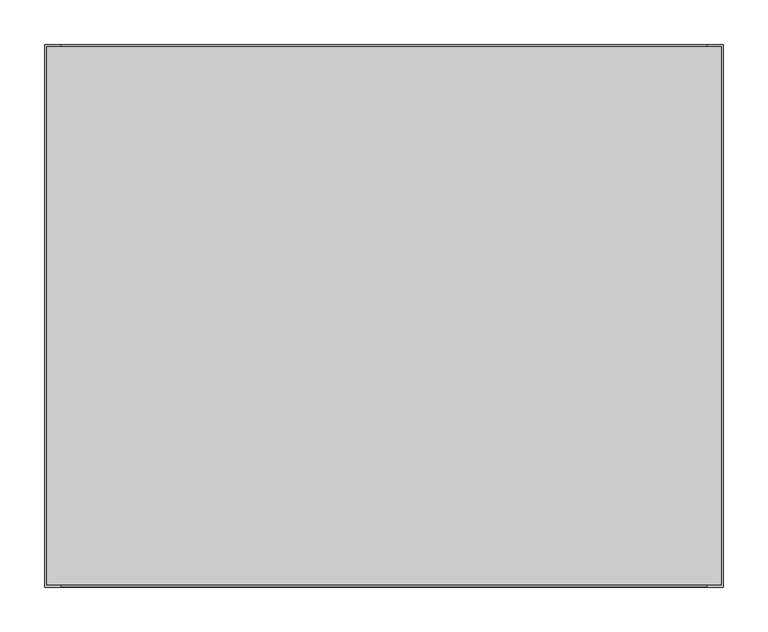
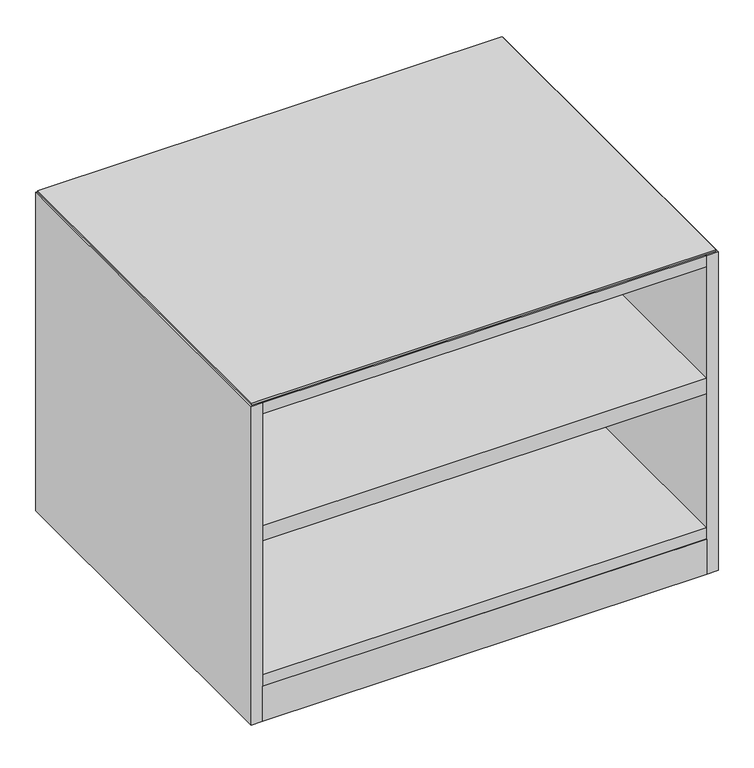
"""IFC4 building model written with IfcOpenShell, lengths in millimetres: furniture geometry, Geiger_GeigerOneCasegoods_LowStorageOpen : TFL 30Wx 24Dx21.75H."""

from ifc_helpers import new_model, si_unit, point, frame, origin, place, context, project, spatial, polyline, circle_curve, ellipse_curve, trimmed, outline, extrude, source, transform, mapped, element, save
from ifc_brep_helpers import plane_surface, cylinder_surface, revolved_surface, advanced_brep


def furniture_cb749d2c(model_context):
    return source(origin(), model_context, "Body", "SolidModel", [
        extrude(outline(polyline([(19.0, -19.5), (743.0, -19.5), (743.0, -590.1), (19.0, -590.1), (19.0, -19.5)])), frame((0.0, 0.0, 12.7), z_axis=(0.0, 0.0, 1.0), x_axis=(1.0, 0.0, 0.0)), (0.0, 0.0, 1.0), 19.5),
        extrude(outline(polyline([(759.46, -2.54), (759.46, -607.06), (2.54, -607.06), (2.54, -2.54), (759.46, -2.54)])), frame((0.0, 0.0, 561.7), z_axis=(0.0, 0.0, 1.0), x_axis=(1.0, 0.0, 0.0)), (0.0, 0.0, 1.0), 3.2766),
        extrude(outline(polyline([(19.0, -248.1), (743.0, -248.1), (743.0, -609.1), (19.0, -609.1), (19.0, -248.1)])), frame((0.0, 0.0, 542.2), z_axis=(0.0, 0.0, 1.0), x_axis=(1.0, 0.0, 0.0)), (0.0, 0.0, 1.0), 19.5),
        extrude(outline(polyline([(19.0, -95.5), (743.0, -95.5), (743.0, -114.5), (19.0, -114.5), (19.0, -95.5)])), frame((0.0, 0.0, 73.2), z_axis=(0.0, 0.0, 1.0), x_axis=(1.0, 0.0, 0.0)), (0.0, 0.0, 1.0), 437.0),
        extrude(outline(polyline([(19.0, -114.5), (743.0, -114.5), (743.0, -609.1), (19.0, -609.1), (19.0, -114.5)])), frame((0.0, 0.0, 323.7992), z_axis=(0.0, 0.0, 1.0), x_axis=(1.0, 0.0, 0.0)), (0.0, 0.0, 1.0), 26.0008),
        extrude(outline(polyline([(19.0, -114.5), (743.0, -114.5), (743.0, -609.1), (19.0, -609.1), (19.0, -114.5)])), frame((0.0, 0.0, 73.2), z_axis=(0.0, 0.0, 1.0), x_axis=(1.0, 0.0, 0.0)), (0.0, 0.0, 1.0), 19.5),
        extrude(outline(polyline([(743.0, -19.5), (19.0, -19.5), (19.0, 0.0), (743.0, 0.0), (743.0, -19.5)])), frame((0.0, 0.0, 12.7), z_axis=(0.0, 0.0, 1.0), x_axis=(1.0, 0.0, 0.0)), (0.0, 0.0, 1.0), 549.0),
        extrude(outline(polyline([(19.0, -590.1), (743.0, -590.1), (743.0, -609.6), (19.0, -609.6), (19.0, -590.1)])), frame((0.0, 0.0, 12.7), z_axis=(0.0, 0.0, 1.0), x_axis=(1.0, 0.0, 0.0)), (0.0, 0.0, 1.0), 60.5),
        extrude(outline(polyline([(19.0, -609.6), (0.0, -609.6), (0.0, -0.5), (19.0, -0.5), (19.0, -609.6)])), frame((0.0, 0.0, 12.7), z_axis=(0.0, 0.0, 1.0), x_axis=(1.0, 0.0, 0.0)), (0.0, 0.0, 1.0), 549.0),
        extrude(outline(polyline([(762.0, -609.6), (743.0, -609.6), (743.0, -0.5), (762.0, -0.5), (762.0, -609.6)])), frame((0.0, 0.0, 12.7), z_axis=(0.0, 0.0, 1.0), x_axis=(1.0, 0.0, 0.0)), (0.0, 0.0, 1.0), 549.0),
        advanced_brep(
        [(94.0575663, -552.1, 0.0), (71.9424337, -552.1, 0.0), (83.0, -552.1, 0.0), (94.0575663, -552.1, 9.5), (71.9424337, -552.1, 9.5), (87.066455, -552.1, 9.5), (78.933545, -552.1, 9.5), (87.066455, -552.1, 12.7), (78.933545, -552.1, 12.7), (83.0, -552.1, 12.7)],
        [
            (0, 1, circle_curve(frame((83.0, -552.1, 0.0), z_axis=(0.0, 0.0, -1.0), x_axis=(-1.0, 0.0, 0.0)), 11.0575663)),
            (1, 2),
            (2, 0),
            (1, 0, circle_curve(frame((83.0, -552.1, 0.0), z_axis=(0.0, 0.0, -1.0), x_axis=(-1.0, 0.0, 0.0)), 11.0575663)),
            (0, 3, circle_curve(frame((94.0575663, -552.1, 4.75), z_axis=(0.0, -1.0, 0.0), x_axis=(1.0, 0.0, 0.0)), 4.75)),
            (3, 4, circle_curve(frame((83.0, -552.1, 9.5), z_axis=(0.0, 0.0, -1.0), x_axis=(-1.0, 0.0, 0.0)), 11.0575663)),
            (4, 1, circle_curve(frame((71.9424337, -552.1, 4.75), z_axis=(0.0, -1.0, 0.0), x_axis=(-1.0, 0.0, 0.0)), 4.75)),
            (4, 3, circle_curve(frame((83.0, -552.1, 9.5), z_axis=(0.0, 0.0, -1.0), x_axis=(-1.0, 0.0, 0.0)), 11.0575663)),
            (3, 5),
            (5, 6, circle_curve(frame((83.0, -552.1, 9.5), z_axis=(0.0, 0.0, -1.0), x_axis=(-1.0, 0.0, 0.0)), 4.066455)),
            (6, 4),
            (6, 5, circle_curve(frame((83.0, -552.1, 9.5), z_axis=(0.0, 0.0, -1.0), x_axis=(-1.0, 0.0, 0.0)), 4.066455)),
            (5, 7),
            (7, 8, circle_curve(frame((83.0, -552.1, 12.7), z_axis=(0.0, 0.0, -1.0), x_axis=(-1.0, 0.0, 0.0)), 4.066455)),
            (8, 6),
            (8, 7, circle_curve(frame((83.0, -552.1, 12.7), z_axis=(0.0, 0.0, -1.0), x_axis=(-1.0, 0.0, 0.0)), 4.066455)),
            (7, 9),
            (9, 8),
        ],
        [
            plane_surface(frame((83.0, -552.1, 0.0), z_axis=(0.0, 0.0, -1.0), x_axis=(-1.0, 0.0, 0.0))),
            revolved_surface(trimmed(ellipse_curve(frame((71.9424337, -552.1, 4.75), z_axis=(0.0, 1.0, 0.0), x_axis=(-1.0, 0.0, 0.0)), 4.75, 4.75), [point((71.9424337, -552.1, 0.0))], [point((71.9424337, -552.1, 9.5))], True, "CARTESIAN"), (83.0, -552.1, 0.0), (0.0, 0.0, 1.0)),
            plane_surface(frame((83.0, -552.1, 9.5), z_axis=(0.0, 0.0, 1.0), x_axis=(-1.0, 0.0, 0.0))),
            cylinder_surface(frame((83.0, -552.1, 0.0), z_axis=(0.0, 0.0, 1.0), x_axis=(-1.0, 0.0, 0.0)), 4.066455),
            plane_surface(frame((83.0, -552.1, 12.7), z_axis=(0.0, 0.0, 1.0), x_axis=(-1.0, 0.0, 0.0))),
        ],
        [
            (0, [[1, 2, 3]]),
            (0, [[-2, 4, -3]]),
            (1, [[-1, 5, 6, 7]]),
            (1, [[-4, -7, 8, -5]]),
            (2, [[-6, 9, 10, 11]]),
            (2, [[-8, -11, 12, -9]]),
            (3, [[-10, 13, 14, 15]]),
            (3, [[-12, -15, 16, -13]]),
            (4, [[-14, 17, 18]]),
            (4, [[-16, -18, -17]]),
        ],
    ),
        advanced_brep(
        [(94.0575663, -127.0, 0.0), (71.9424337, -127.0, 0.0), (83.0, -127.0, 0.0), (94.0575663, -127.0, 9.5), (71.9424337, -127.0, 9.5), (87.066455, -127.0, 9.5), (78.933545, -127.0, 9.5), (87.066455, -127.0, 12.7), (78.933545, -127.0, 12.7), (83.0, -127.0, 12.7)],
        [
            (0, 1, circle_curve(frame((83.0, -127.0, 0.0), z_axis=(0.0, 0.0, -1.0), x_axis=(-1.0, 0.0, 0.0)), 11.0575663)),
            (1, 2),
            (2, 0),
            (1, 0, circle_curve(frame((83.0, -127.0, 0.0), z_axis=(0.0, 0.0, -1.0), x_axis=(-1.0, 0.0, 0.0)), 11.0575663)),
            (0, 3, circle_curve(frame((94.0575663, -127.0, 4.75), z_axis=(0.0, -1.0, 0.0), x_axis=(1.0, 0.0, 0.0)), 4.75)),
            (3, 4, circle_curve(frame((83.0, -127.0, 9.5), z_axis=(0.0, 0.0, -1.0), x_axis=(-1.0, 0.0, 0.0)), 11.0575663)),
            (4, 1, circle_curve(frame((71.9424337, -127.0, 4.75), z_axis=(0.0, -1.0, 0.0), x_axis=(-1.0, 0.0, 0.0)), 4.75)),
            (4, 3, circle_curve(frame((83.0, -127.0, 9.5), z_axis=(0.0, 0.0, -1.0), x_axis=(-1.0, 0.0, 0.0)), 11.0575663)),
            (3, 5),
            (5, 6, circle_curve(frame((83.0, -127.0, 9.5), z_axis=(0.0, 0.0, -1.0), x_axis=(-1.0, 0.0, 0.0)), 4.066455)),
            (6, 4),
            (6, 5, circle_curve(frame((83.0, -127.0, 9.5), z_axis=(0.0, 0.0, -1.0), x_axis=(-1.0, 0.0, 0.0)), 4.066455)),
            (5, 7),
            (7, 8, circle_curve(frame((83.0, -127.0, 12.7), z_axis=(0.0, 0.0, -1.0), x_axis=(-1.0, 0.0, 0.0)), 4.066455)),
            (8, 6),
            (8, 7, circle_curve(frame((83.0, -127.0, 12.7), z_axis=(0.0, 0.0, -1.0), x_axis=(-1.0, 0.0, 0.0)), 4.066455)),
            (7, 9),
            (9, 8),
        ],
        [
            plane_surface(frame((83.0, -127.0, 0.0), z_axis=(0.0, 0.0, -1.0), x_axis=(-1.0, 0.0, 0.0))),
            revolved_surface(trimmed(ellipse_curve(frame((71.9424337, -127.0, 4.75), z_axis=(0.0, 1.0, 0.0), x_axis=(-1.0, 0.0, 0.0)), 4.75, 4.75), [point((71.9424337, -127.0, 0.0))], [point((71.9424337, -127.0, 9.5))], True, "CARTESIAN"), (83.0, -127.0, 0.0), (0.0, 0.0, 1.0)),
            plane_surface(frame((83.0, -127.0, 9.5), z_axis=(0.0, 0.0, 1.0), x_axis=(-1.0, 0.0, 0.0))),
            cylinder_surface(frame((83.0, -127.0, 0.0), z_axis=(0.0, 0.0, 1.0), x_axis=(-1.0, 0.0, 0.0)), 4.066455),
            plane_surface(frame((83.0, -127.0, 12.7), z_axis=(0.0, 0.0, 1.0), x_axis=(-1.0, 0.0, 0.0))),
        ],
        [
            (0, [[1, 2, 3]]),
            (0, [[-2, 4, -3]]),
            (1, [[-1, 5, 6, 7]]),
            (1, [[-4, -7, 8, -5]]),
            (2, [[-6, 9, 10, 11]]),
            (2, [[-8, -11, 12, -9]]),
            (3, [[-10, 13, 14, 15]]),
            (3, [[-12, -15, 16, -13]]),
            (4, [[-14, 17, 18]]),
            (4, [[-16, -18, -17]]),
        ],
    ),
        advanced_brep(
        [(679.0, -552.1, 0.0), (690.0575663, -552.1, 0.0), (667.9424337, -552.1, 0.0), (690.0575663, -552.1, 9.5), (667.9424337, -552.1, 9.5), (683.066455, -552.1, 9.5), (674.933545, -552.1, 9.5), (683.066455, -552.1, 12.7), (674.933545, -552.1, 12.7), (679.0, -552.1, 12.7)],
        [
            (0, 1),
            (1, 2, circle_curve(frame((679.0, -552.1, 0.0), z_axis=(0.0, 0.0, -1.0), x_axis=(1.0, 0.0, 0.0)), 11.0575663)),
            (2, 0),
            (2, 1, circle_curve(frame((679.0, -552.1, 0.0), z_axis=(0.0, 0.0, -1.0), x_axis=(1.0, 0.0, 0.0)), 11.0575663)),
            (1, 3, circle_curve(frame((690.0575663, -552.1, 4.75), z_axis=(0.0, -1.0, 0.0), x_axis=(-1.0, 0.0, 0.0)), 4.75)),
            (3, 4, circle_curve(frame((679.0, -552.1, 9.5), z_axis=(0.0, 0.0, -1.0), x_axis=(1.0, 0.0, 0.0)), 11.0575663)),
            (4, 2, circle_curve(frame((667.9424337, -552.1, 4.75), z_axis=(0.0, -1.0, 0.0), x_axis=(1.0, 0.0, 0.0)), 4.75)),
            (4, 3, circle_curve(frame((679.0, -552.1, 9.5), z_axis=(0.0, 0.0, -1.0), x_axis=(1.0, 0.0, 0.0)), 11.0575663)),
            (3, 5),
            (5, 6, circle_curve(frame((679.0, -552.1, 9.5), z_axis=(0.0, 0.0, -1.0), x_axis=(1.0, 0.0, 0.0)), 4.066455)),
            (6, 4),
            (6, 5, circle_curve(frame((679.0, -552.1, 9.5), z_axis=(0.0, 0.0, -1.0), x_axis=(1.0, 0.0, 0.0)), 4.066455)),
            (5, 7),
            (7, 8, circle_curve(frame((679.0, -552.1, 12.7), z_axis=(0.0, 0.0, -1.0), x_axis=(1.0, 0.0, 0.0)), 4.066455)),
            (8, 6),
            (8, 7, circle_curve(frame((679.0, -552.1, 12.7), z_axis=(0.0, 0.0, -1.0), x_axis=(1.0, 0.0, 0.0)), 4.066455)),
            (7, 9),
            (9, 8),
        ],
        [
            plane_surface(frame((679.0, -552.1, 0.0), z_axis=(0.0, 0.0, -1.0), x_axis=(1.0, 0.0, 0.0))),
            revolved_surface(trimmed(ellipse_curve(frame((690.0575663, -552.1, 4.75), z_axis=(0.0, 1.0, 0.0), x_axis=(-1.0, 0.0, 0.0)), 4.75, 4.75), [point((690.0575663, -552.1, 9.5))], [point((690.0575663, -552.1, 0.0))], True, "CARTESIAN"), (679.0, -552.1, 0.0), (0.0, 0.0, -1.0)),
            plane_surface(frame((679.0, -552.1, 9.5), z_axis=(0.0, 0.0, 1.0), x_axis=(1.0, 0.0, 0.0))),
            cylinder_surface(frame((679.0, -552.1, 0.0), z_axis=(0.0, 0.0, -1.0), x_axis=(1.0, 0.0, 0.0)), 4.066455),
            plane_surface(frame((679.0, -552.1, 12.7), z_axis=(0.0, 0.0, 1.0), x_axis=(1.0, 0.0, 0.0))),
        ],
        [
            (0, [[1, 2, 3]]),
            (0, [[-1, -3, 4]]),
            (1, [[-2, 5, 6, 7]]),
            (1, [[-4, -7, 8, -5]]),
            (2, [[-6, 9, 10, 11]]),
            (2, [[-8, -11, 12, -9]]),
            (3, [[-10, 13, 14, 15]]),
            (3, [[-12, -15, 16, -13]]),
            (4, [[-14, 17, 18]]),
            (4, [[-16, -18, -17]]),
        ],
    ),
        advanced_brep(
        [(679.0, -127.0, 0.0), (690.0575663, -127.0, 0.0), (667.9424337, -127.0, 0.0), (690.0575663, -127.0, 9.5), (667.9424337, -127.0, 9.5), (683.066455, -127.0, 9.5), (674.933545, -127.0, 9.5), (683.066455, -127.0, 12.7), (674.933545, -127.0, 12.7), (679.0, -127.0, 12.7)],
        [
            (0, 1),
            (1, 2, circle_curve(frame((679.0, -127.0, 0.0), z_axis=(0.0, 0.0, -1.0), x_axis=(1.0, 0.0, 0.0)), 11.0575663)),
            (2, 0),
            (2, 1, circle_curve(frame((679.0, -127.0, 0.0), z_axis=(0.0, 0.0, -1.0), x_axis=(1.0, 0.0, 0.0)), 11.0575663)),
            (1, 3, circle_curve(frame((690.0575663, -127.0, 4.75), z_axis=(0.0, -1.0, 0.0), x_axis=(-1.0, 0.0, 0.0)), 4.75)),
            (3, 4, circle_curve(frame((679.0, -127.0, 9.5), z_axis=(0.0, 0.0, -1.0), x_axis=(1.0, 0.0, 0.0)), 11.0575663)),
            (4, 2, circle_curve(frame((667.9424337, -127.0, 4.75), z_axis=(0.0, -1.0, 0.0), x_axis=(1.0, 0.0, 0.0)), 4.75)),
            (4, 3, circle_curve(frame((679.0, -127.0, 9.5), z_axis=(0.0, 0.0, -1.0), x_axis=(1.0, 0.0, 0.0)), 11.0575663)),
            (3, 5),
            (5, 6, circle_curve(frame((679.0, -127.0, 9.5), z_axis=(0.0, 0.0, -1.0), x_axis=(1.0, 0.0, 0.0)), 4.066455)),
            (6, 4),
            (6, 5, circle_curve(frame((679.0, -127.0, 9.5), z_axis=(0.0, 0.0, -1.0), x_axis=(1.0, 0.0, 0.0)), 4.066455)),
            (5, 7),
            (7, 8, circle_curve(frame((679.0, -127.0, 12.7), z_axis=(0.0, 0.0, -1.0), x_axis=(1.0, 0.0, 0.0)), 4.066455)),
            (8, 6),
            (8, 7, circle_curve(frame((679.0, -127.0, 12.7), z_axis=(0.0, 0.0, -1.0), x_axis=(1.0, 0.0, 0.0)), 4.066455)),
            (7, 9),
            (9, 8),
        ],
        [
            plane_surface(frame((679.0, -127.0, 0.0), z_axis=(0.0, 0.0, -1.0), x_axis=(1.0, 0.0, 0.0))),
            revolved_surface(trimmed(ellipse_curve(frame((690.0575663, -127.0, 4.75), z_axis=(0.0, 1.0, 0.0), x_axis=(-1.0, 0.0, 0.0)), 4.75, 4.75), [point((690.0575663, -127.0, 9.5))], [point((690.0575663, -127.0, 0.0))], True, "CARTESIAN"), (679.0, -127.0, 0.0), (0.0, 0.0, -1.0)),
            plane_surface(frame((679.0, -127.0, 9.5), z_axis=(0.0, 0.0, 1.0), x_axis=(1.0, 0.0, 0.0))),
            cylinder_surface(frame((679.0, -127.0, 0.0), z_axis=(0.0, 0.0, -1.0), x_axis=(1.0, 0.0, 0.0)), 4.066455),
            plane_surface(frame((679.0, -127.0, 12.7), z_axis=(0.0, 0.0, 1.0), x_axis=(1.0, 0.0, 0.0))),
        ],
        [
            (0, [[1, 2, 3]]),
            (0, [[-1, -3, 4]]),
            (1, [[-2, 5, 6, 7]]),
            (1, [[-4, -7, 8, -5]]),
            (2, [[-6, 9, 10, 11]]),
            (2, [[-8, -11, 12, -9]]),
            (3, [[-10, 13, 14, 15]]),
            (3, [[-12, -15, 16, -13]]),
            (4, [[-14, 17, 18]]),
            (4, [[-16, -18, -17]]),
        ],
    ),
    ])


if __name__ == "__main__":
    model = new_model("IFC4")
    model_context = context("Model", 3, world=origin())
    ifc_project = project(units=[si_unit("LENGTHUNIT", "METRE", prefix="MILLI")], contexts=[model_context])
    site = spatial("IfcSite", under=ifc_project)
    building = spatial("IfcBuilding", under=site)
    placement = place(None, origin())
    furniture_shape = furniture_cb749d2c(model_context)
    element("IfcFurniture", 1, ObjectType="Geiger_GeigerOneCasegoods_LowStorageOpen : TFL 30Wx 24Dx21.75H", at=placement, inside=building, context=model_context, shape_type="MappedRepresentation", body=[
        mapped(furniture_shape, transform((0.0, 0.0, 0.0), x_axis=(1.0, 0.0, 0.0), y_axis=(0.0, 1.0, 0.0), z_axis=(0.0, 0.0, 1.0))),
    ])
    save(model, "model.ifc")
